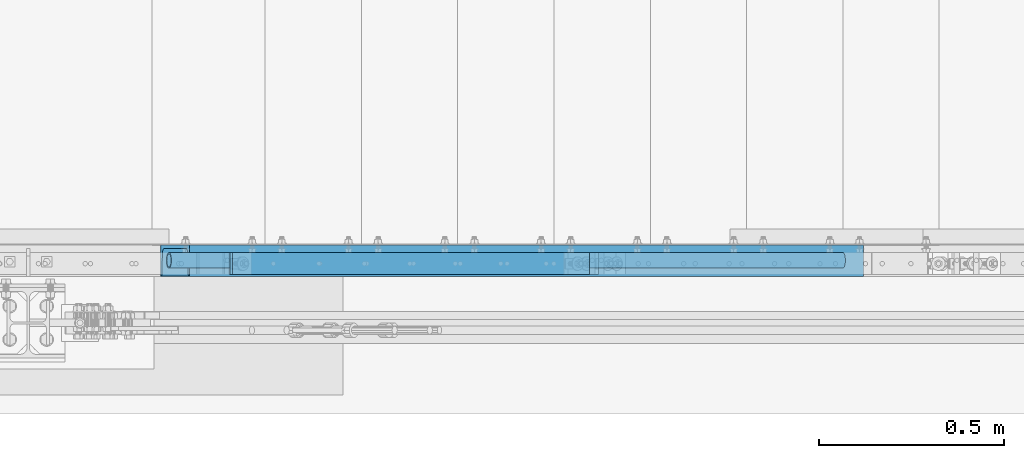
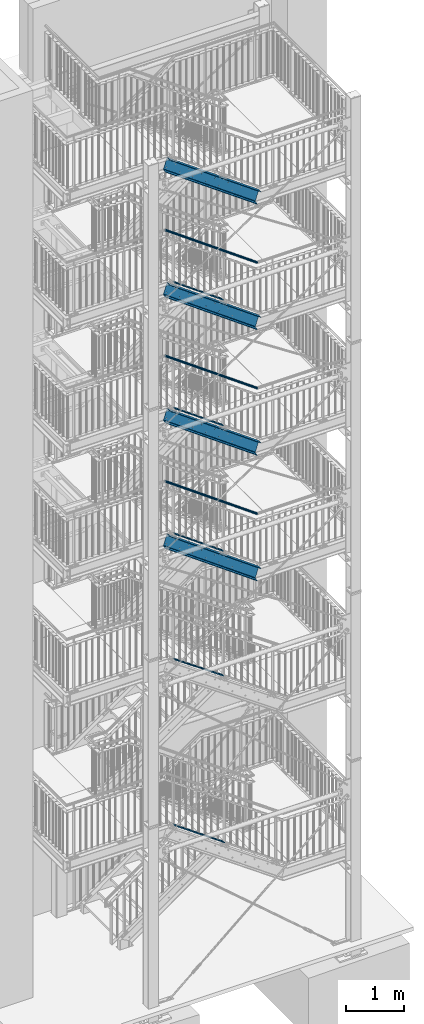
# One storey, part 117 of 825: 12 members, 64 openings.
"""IFC2X3 building model written with IfcOpenShell, lengths in millimetres."""

from ifc_helpers import new_model, entity, si_unit, converted_unit, frame, frame_2d, origin, origin_with_axes, origin_2d, origin_2d_with_axis, place, context, project, spatial, rectangle, circle, hollow_circle, u_section, extrude, clip, halfspace, material, element, save


model = new_model("IFC2X3")

# Units and contexts
model_context = context("Model", 3, precision=1e-09, world=origin_with_axes())
ifc_project = project(units=[si_unit("LENGTHUNIT", "METRE", prefix="MILLI"), si_unit("AREAUNIT", "SQUARE_METRE"), si_unit("VOLUMEUNIT", "CUBIC_METRE"), converted_unit("PLANEANGLEUNIT", "DEGREE", entity("IfcPlaneAngleMeasure", 0.01745329), si_unit("PLANEANGLEUNIT", "RADIAN"), dimensions=[0, 0, 0, 0, 0, 0, 0])], contexts=[model_context])

# Site, building, storey
site_placement = place(None, origin_with_axes())
site = spatial("IfcSite", under=ifc_project, at=site_placement, Name="Cnopf'sche Kinderklinik", CompositionType="ELEMENT")
building_placement = place(site_placement, origin_with_axes())
building = spatial("IfcBuilding", under=site, at=building_placement, Name="Struktur 1", CompositionType="ELEMENT")
storey_placement = place(building_placement, origin_with_axes())
storey = spatial("IfcBuildingStorey", under=building, at=storey_placement, Name="Default Storey", CompositionType="ELEMENT", Elevation=0.0)

# Member, openings
ifc_material = material(Name="S235JR")
member_1_placement = place(None, frame((7252.657044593, 4554.436971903, 11016.099256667), z_axis=(-0.810878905, 0.0, 0.585213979), x_axis=(0.0, -1.0, 0.0)))
member_1 = element("IfcMember", 1, at=member_1_placement, inside=storey, material=ifc_material, Name="Stringer#1", ObjectType="Stringer#1", context=model_context, shape_type="Clipping", body=[
    clip(clip(extrude(u_section(Depth=240.0, FlangeWidth=85.0, WebThickness=9.5, FlangeThickness=13.0, FilletRadius=13.0, EdgeRadius=6.5, FlangeSlope=4.574, at=frame_2d((20.2, 0.0))), origin(), (0.0, 0.0, 1.0), 2764.271886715), halfspace(frame((4554.436971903, -12161.289703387, -3708.993877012), z_axis=(0.0, -0.307506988, 0.951545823), x_axis=(1.0, 0.0, 0.0)), True)), halfspace(frame((4554.436971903, -12818.039088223, -1676.756695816), z_axis=(0.0, 0.307506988, -0.951545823), x_axis=(-1.0, 0.0, 0.0)), True)),
])
opening_1_placement = place(member_1_placement, frame((-22.8, -50.419345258, 1111.679598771), z_axis=(1.0, 0.0, 0.0), x_axis=(0.0, -0.585213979, 0.810878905)))
element("IfcOpeningElement", 2, at=opening_1_placement, cuts=member_1, ObjectType="Opening", context=model_context, shape_type="SweptSolid", body=[
    extrude(circle(Radius=7.001, at=origin_2d_with_axis()), origin(), (0.0, 0.0, 1.0), 10.5),
])
opening_2_placement = place(member_1_placement, frame((-22.8, -50.419345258, 1752.959075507), z_axis=(1.0, 0.0, 0.0), x_axis=(0.0, -0.585213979, 0.810878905)))
element("IfcOpeningElement", 3, at=opening_2_placement, cuts=member_1, ObjectType="Opening", context=model_context, shape_type="SweptSolid", body=[
    extrude(circle(Radius=7.001, at=origin_2d_with_axis()), origin(), (0.0, 0.0, 1.0), 10.5),
])
opening_3_placement = place(member_1_placement, frame((-22.8, 54.919170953, 645.081657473), z_axis=(1.0, 0.0, 0.0), x_axis=(0.0, -0.585213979, 0.810878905)))
element("IfcOpeningElement", 4, at=opening_3_placement, cuts=member_1, ObjectType="Opening", context=model_context, shape_type="SweptSolid", body=[
    extrude(circle(Radius=7.001, at=origin_2d_with_axis()), origin(), (0.0, 0.0, 1.0), 10.5),
])
opening_4_placement = place(member_1_placement, frame((-22.8, 54.919170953, 2248.280349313), z_axis=(1.0, 0.0, 0.0), x_axis=(0.0, -0.585213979, 0.810878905)))
element("IfcOpeningElement", 5, at=opening_4_placement, cuts=member_1, ObjectType="Opening", context=model_context, shape_type="SweptSolid", body=[
    extrude(circle(Radius=7.001, at=origin_2d_with_axis()), origin(), (0.0, 0.0, 1.0), 10.5),
])
opening_5_placement = place(member_1_placement, frame((-22.8, -50.419345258, 791.039860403), z_axis=(1.0, 0.0, 0.0), x_axis=(0.0, -0.585213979, 0.810878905)))
element("IfcOpeningElement", 6, at=opening_5_placement, cuts=member_1, ObjectType="Opening", context=model_context, shape_type="SweptSolid", body=[
    extrude(circle(Radius=7.001, at=origin_2d_with_axis()), origin(), (0.0, 0.0, 1.0), 10.5),
])
opening_6_placement = place(member_1_placement, frame((-22.8, -50.419345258, 1432.319337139), z_axis=(1.0, 0.0, 0.0), x_axis=(0.0, -0.585213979, 0.810878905)))
element("IfcOpeningElement", 7, at=opening_6_placement, cuts=member_1, ObjectType="Opening", context=model_context, shape_type="SweptSolid", body=[
    extrude(circle(Radius=7.001, at=origin_2d_with_axis()), origin(), (0.0, 0.0, 1.0), 10.5),
])
opening_7_placement = place(member_1_placement, frame((-22.8, -50.419345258, 2394.238552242), z_axis=(1.0, 0.0, 0.0), x_axis=(0.0, -0.585213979, 0.810878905)))
element("IfcOpeningElement", 8, at=opening_7_placement, cuts=member_1, ObjectType="Opening", context=model_context, shape_type="SweptSolid", body=[
    extrude(circle(Radius=7.001, at=origin_2d_with_axis()), origin(), (0.0, 0.0, 1.0), 10.5),
])
opening_8_placement = place(member_1_placement, frame((-22.8, 54.919170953, 1607.000872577), z_axis=(1.0, 0.0, 0.0), x_axis=(0.0, -0.585213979, 0.810878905)))
element("IfcOpeningElement", 9, at=opening_8_placement, cuts=member_1, ObjectType="Opening", context=model_context, shape_type="SweptSolid", body=[
    extrude(circle(Radius=7.001, at=origin_2d_with_axis()), origin(), (0.0, 0.0, 1.0), 10.5),
])
opening_9_placement = place(member_1_placement, frame((-22.8, 54.919170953, 1927.640610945), z_axis=(1.0, 0.0, 0.0), x_axis=(0.0, -0.585213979, 0.810878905)))
element("IfcOpeningElement", 10, at=opening_9_placement, cuts=member_1, ObjectType="Opening", context=model_context, shape_type="SweptSolid", body=[
    extrude(circle(Radius=7.001, at=origin_2d_with_axis()), origin(), (0.0, 0.0, 1.0), 10.5),
])
opening_10_placement = place(member_1_placement, frame((-22.8, 54.919170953, 965.721395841), z_axis=(1.0, 0.0, 0.0), x_axis=(0.0, -0.585213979, 0.810878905)))
element("IfcOpeningElement", 11, at=opening_10_placement, cuts=member_1, ObjectType="Opening", context=model_context, shape_type="SweptSolid", body=[
    extrude(circle(Radius=7.001, at=origin_2d_with_axis()), origin(), (0.0, 0.0, 1.0), 10.5),
])
opening_11_placement = place(member_1_placement, frame((-22.8, 54.919170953, 1286.361134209), z_axis=(1.0, 0.0, 0.0), x_axis=(0.0, -0.585213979, 0.810878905)))
element("IfcOpeningElement", 12, at=opening_11_placement, cuts=member_1, ObjectType="Opening", context=model_context, shape_type="SweptSolid", body=[
    extrude(circle(Radius=7.001, at=origin_2d_with_axis()), origin(), (0.0, 0.0, 1.0), 10.5),
])
opening_12_placement = place(member_1_placement, frame((-22.8, -50.419345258, 2073.598813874), z_axis=(1.0, 0.0, 0.0), x_axis=(0.0, -0.585213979, 0.810878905)))
element("IfcOpeningElement", 13, at=opening_12_placement, cuts=member_1, ObjectType="Opening", context=model_context, shape_type="SweptSolid", body=[
    extrude(circle(Radius=7.001, at=origin_2d_with_axis()), origin(), (0.0, 0.0, 1.0), 10.5),
])
opening_13_placement = place(member_1_placement, frame((27.7, 120.5, 1220.472067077), z_axis=(0.0, 1.0, 0.0), x_axis=(-1.0, 0.0, 0.0)))
element("IfcOpeningElement", 14, at=opening_13_placement, cuts=member_1, ObjectType="Opening", context=model_context, shape_type="SweptSolid", body=[
    extrude(circle(Radius=7.001, at=frame_2d((0.0, 7.001), x_axis=(1.0, 0.0))), origin(), (0.0, 0.0, -1.0), 14.0),
])
opening_14_placement = place(member_1_placement, frame((27.7, 120.5, 1120.472067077), z_axis=(0.0, 1.0, 0.0), x_axis=(-1.0, 0.0, 0.0)))
element("IfcOpeningElement", 15, at=opening_14_placement, cuts=member_1, ObjectType="Opening", context=model_context, shape_type="SweptSolid", body=[
    extrude(circle(Radius=7.001, at=frame_2d((0.0, 7.001), x_axis=(1.0, 0.0))), origin(), (0.0, 0.0, -1.0), 14.0),
])
opening_15_placement = place(member_1_placement, frame((27.7, 120.5, 2435.203559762), z_axis=(0.0, 1.0, 0.0), x_axis=(-1.0, 0.0, 0.0)))
element("IfcOpeningElement", 16, at=opening_15_placement, cuts=member_1, ObjectType="Opening", context=model_context, shape_type="SweptSolid", body=[
    extrude(circle(Radius=7.001, at=frame_2d((0.0, 7.001), x_axis=(1.0, 0.0))), origin(), (0.0, 0.0, -1.0), 14.0),
])
opening_16_placement = place(member_1_placement, frame((27.7, 120.5, 2335.203559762), z_axis=(0.0, 1.0, 0.0), x_axis=(-1.0, 0.0, 0.0)))
element("IfcOpeningElement", 17, at=opening_16_placement, cuts=member_1, ObjectType="Opening", context=model_context, shape_type="SweptSolid", body=[
    extrude(circle(Radius=7.001, at=frame_2d((0.0, 7.001), x_axis=(1.0, 0.0))), origin(), (0.0, 0.0, -1.0), 14.0),
])

member_2_placement = place(None, frame((7252.177764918, 4554.436971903, 13646.861065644), z_axis=(-0.810033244, 0.0, 0.586383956), x_axis=(0.0, -1.0, 0.0)))
member_2 = element("IfcMember", 18, at=member_2_placement, inside=storey, material=ifc_material, Name="Stringer#1", ObjectType="Stringer#1", context=model_context, shape_type="Clipping", body=[
    clip(clip(extrude(u_section(Depth=240.0, FlangeWidth=85.0, WebThickness=9.5, FlangeThickness=13.0, FilletRadius=13.0, EdgeRadius=6.5, FlangeSlope=4.574, at=frame_2d((20.2, 0.0))), origin(), (0.0, 0.0, 1.0), 2766.736495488), halfspace(frame((4554.436971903, -14541.73622123, -4489.902696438), z_axis=(0.0, -0.308193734, 0.951323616), x_axis=(1.0, 0.0, 0.0)), True)), halfspace(frame((4554.436971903, -15200.485604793, -2456.493916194), z_axis=(0.0, 0.308193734, -0.951323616), x_axis=(-1.0, 0.0, 0.0)), True)),
])
opening_17_placement = place(member_2_placement, frame((-22.8, -50.624378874, 2395.925170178), z_axis=(1.0, 0.0, 0.0), x_axis=(0.0, -0.586383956, 0.810033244)))
element("IfcOpeningElement", 19, at=opening_17_placement, cuts=member_2, ObjectType="Opening", context=model_context, shape_type="SweptSolid", body=[
    extrude(circle(Radius=7.001, at=origin_2d_with_axis()), origin(), (0.0, 0.0, 1.0), 10.5),
])
opening_18_placement = place(member_2_placement, frame((-22.8, 54.924733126, 1608.170224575), z_axis=(1.0, 0.0, 0.0), x_axis=(0.0, -0.586383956, 0.810033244)))
element("IfcOpeningElement", 20, at=opening_18_placement, cuts=member_2, ObjectType="Opening", context=model_context, shape_type="SweptSolid", body=[
    extrude(circle(Radius=7.001, at=origin_2d_with_axis()), origin(), (0.0, 0.0, 1.0), 10.5),
])
opening_19_placement = place(member_2_placement, frame((-22.8, -50.624378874, 1433.001727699), z_axis=(1.0, 0.0, 0.0), x_axis=(0.0, -0.586383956, 0.810033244)))
element("IfcOpeningElement", 21, at=opening_19_placement, cuts=member_2, ObjectType="Opening", context=model_context, shape_type="SweptSolid", body=[
    extrude(circle(Radius=7.001, at=origin_2d_with_axis()), origin(), (0.0, 0.0, 1.0), 10.5),
])
opening_20_placement = place(member_2_placement, frame((-22.8, -50.624378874, 1112.027246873), z_axis=(1.0, 0.0, 0.0), x_axis=(0.0, -0.586383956, 0.810033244)))
element("IfcOpeningElement", 22, at=opening_20_placement, cuts=member_2, ObjectType="Opening", context=model_context, shape_type="SweptSolid", body=[
    extrude(circle(Radius=7.001, at=origin_2d_with_axis()), origin(), (0.0, 0.0, 1.0), 10.5),
])
opening_21_placement = place(member_2_placement, frame((-22.8, 54.924733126, 1929.144705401), z_axis=(1.0, 0.0, 0.0), x_axis=(0.0, -0.586383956, 0.810033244)))
element("IfcOpeningElement", 23, at=opening_21_placement, cuts=member_2, ObjectType="Opening", context=model_context, shape_type="SweptSolid", body=[
    extrude(circle(Radius=7.001, at=origin_2d_with_axis()), origin(), (0.0, 0.0, 1.0), 10.5),
])
opening_22_placement = place(member_2_placement, frame((-22.8, -50.624378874, 791.052766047), z_axis=(1.0, 0.0, 0.0), x_axis=(0.0, -0.586383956, 0.810033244)))
element("IfcOpeningElement", 24, at=opening_22_placement, cuts=member_2, ObjectType="Opening", context=model_context, shape_type="SweptSolid", body=[
    extrude(circle(Radius=7.001, at=origin_2d_with_axis()), origin(), (0.0, 0.0, 1.0), 10.5),
])
opening_23_placement = place(member_2_placement, frame((-22.8, -50.624378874, 2074.950689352), z_axis=(1.0, 0.0, 0.0), x_axis=(0.0, -0.586383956, 0.810033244)))
element("IfcOpeningElement", 25, at=opening_23_placement, cuts=member_2, ObjectType="Opening", context=model_context, shape_type="SweptSolid", body=[
    extrude(circle(Radius=7.001, at=origin_2d_with_axis()), origin(), (0.0, 0.0, 1.0), 10.5),
])
opening_24_placement = place(member_2_placement, frame((-22.8, 54.924733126, 1287.195743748), z_axis=(1.0, 0.0, 0.0), x_axis=(0.0, -0.586383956, 0.810033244)))
element("IfcOpeningElement", 26, at=opening_24_placement, cuts=member_2, ObjectType="Opening", context=model_context, shape_type="SweptSolid", body=[
    extrude(circle(Radius=7.001, at=origin_2d_with_axis()), origin(), (0.0, 0.0, 1.0), 10.5),
])
opening_25_placement = place(member_2_placement, frame((-22.8, -50.624378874, 1753.976208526), z_axis=(1.0, 0.0, 0.0), x_axis=(0.0, -0.586383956, 0.810033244)))
element("IfcOpeningElement", 27, at=opening_25_placement, cuts=member_2, ObjectType="Opening", context=model_context, shape_type="SweptSolid", body=[
    extrude(circle(Radius=7.001, at=origin_2d_with_axis()), origin(), (0.0, 0.0, 1.0), 10.5),
])
opening_26_placement = place(member_2_placement, frame((-22.8, 54.924733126, 645.246782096), z_axis=(1.0, 0.0, 0.0), x_axis=(0.0, -0.586383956, 0.810033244)))
element("IfcOpeningElement", 28, at=opening_26_placement, cuts=member_2, ObjectType="Opening", context=model_context, shape_type="SweptSolid", body=[
    extrude(circle(Radius=7.001, at=origin_2d_with_axis()), origin(), (0.0, 0.0, 1.0), 10.5),
])
opening_27_placement = place(member_2_placement, frame((-22.8, 54.924733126, 966.221262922), z_axis=(1.0, 0.0, 0.0), x_axis=(0.0, -0.586383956, 0.810033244)))
element("IfcOpeningElement", 29, at=opening_27_placement, cuts=member_2, ObjectType="Opening", context=model_context, shape_type="SweptSolid", body=[
    extrude(circle(Radius=7.001, at=origin_2d_with_axis()), origin(), (0.0, 0.0, 1.0), 10.5),
])
opening_28_placement = place(member_2_placement, frame((-22.8, 54.924733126, 2250.119186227), z_axis=(1.0, 0.0, 0.0), x_axis=(0.0, -0.586383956, 0.810033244)))
element("IfcOpeningElement", 30, at=opening_28_placement, cuts=member_2, ObjectType="Opening", context=model_context, shape_type="SweptSolid", body=[
    extrude(circle(Radius=7.001, at=origin_2d_with_axis()), origin(), (0.0, 0.0, 1.0), 10.5),
])
opening_29_placement = place(member_2_placement, frame((27.7, 120.5, 1221.277568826), z_axis=(0.0, 1.0, 0.0), x_axis=(-1.0, 0.0, 0.0)))
element("IfcOpeningElement", 31, at=opening_29_placement, cuts=member_2, ObjectType="Opening", context=model_context, shape_type="SweptSolid", body=[
    extrude(circle(Radius=7.001, at=frame_2d((0.0, 7.001), x_axis=(1.0, 0.0))), origin(), (0.0, 0.0, -1.0), 14.000000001),
])
opening_30_placement = place(member_2_placement, frame((27.7, 120.500000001, 1121.277568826), z_axis=(0.0, 1.0, 0.0), x_axis=(-1.0, 0.0, 0.0)))
element("IfcOpeningElement", 32, at=opening_30_placement, cuts=member_2, ObjectType="Opening", context=model_context, shape_type="SweptSolid", body=[
    extrude(circle(Radius=7.001, at=frame_2d((0.0, 7.001), x_axis=(1.0, 0.0))), origin(), (0.0, 0.0, -1.0), 14.000000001),
])
opening_31_placement = place(member_2_placement, frame((27.7, 120.5, 2437.277220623), z_axis=(0.0, 1.0, 0.0), x_axis=(-1.0, 0.0, 0.0)))
element("IfcOpeningElement", 33, at=opening_31_placement, cuts=member_2, ObjectType="Opening", context=model_context, shape_type="SweptSolid", body=[
    extrude(circle(Radius=7.001, at=frame_2d((0.0, 7.001), x_axis=(1.0, 0.0))), origin(), (0.0, 0.0, -1.0), 14.0),
])
opening_32_placement = place(member_2_placement, frame((27.7, 120.5, 2337.277220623), z_axis=(0.0, 1.0, 0.0), x_axis=(-1.0, 0.0, 0.0)))
element("IfcOpeningElement", 34, at=opening_32_placement, cuts=member_2, ObjectType="Opening", context=model_context, shape_type="SweptSolid", body=[
    extrude(circle(Radius=7.001, at=frame_2d((0.0, 7.001), x_axis=(1.0, 0.0))), origin(), (0.0, 0.0, -1.0), 14.0),
])

member_3_placement = place(None, frame((7253.077573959, 4554.436971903, 16274.808313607), z_axis=(-0.811618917, 0.0, 0.584187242), x_axis=(0.0, -1.0, 0.0)))
member_3 = element("IfcMember", 35, at=member_3_placement, inside=storey, material=ifc_material, Name="Stringer#1", ObjectType="Stringer#1", context=model_context, shape_type="Clipping", body=[
    clip(clip(extrude(u_section(Depth=240.0, FlangeWidth=85.0, WebThickness=9.5, FlangeThickness=13.0, FilletRadius=13.0, EdgeRadius=6.5, FlangeSlope=4.574, at=frame_2d((20.2, 0.0))), origin(), (0.0, 0.0, 1.0), 2762.119260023), halfspace(frame((4554.436971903, -16925.049146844, -5236.620334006), z_axis=(0.0, -0.306904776, 0.951740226), x_axis=(1.0, 0.0, 0.0)), True)), halfspace(frame((4554.436971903, -17580.048532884, -3205.40637968), z_axis=(0.0, 0.306904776, -0.951740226), x_axis=(-1.0, 0.0, 0.0)), True)),
])
opening_33_placement = place(member_3_placement, frame((-22.8, -50.23929749, 1752.072290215), z_axis=(1.0, 0.0, 0.0), x_axis=(0.0, -0.584187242, 0.811618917)))
element("IfcOpeningElement", 36, at=opening_33_placement, cuts=member_3, ObjectType="Opening", context=model_context, shape_type="SweptSolid", body=[
    extrude(circle(Radius=7.001, at=origin_2d_with_axis()), origin(), (0.0, 0.0, 1.0), 10.5),
])
opening_34_placement = place(member_3_placement, frame((-22.8, 54.914406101, 2246.675661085), z_axis=(1.0, 0.0, 0.0), x_axis=(0.0, -0.584187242, 0.811618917)))
element("IfcOpeningElement", 37, at=opening_34_placement, cuts=member_3, ObjectType="Opening", context=model_context, shape_type="SweptSolid", body=[
    extrude(circle(Radius=7.001, at=origin_2d_with_axis()), origin(), (0.0, 0.0, 1.0), 10.5),
])
opening_35_placement = place(member_3_placement, frame((-22.8, 54.914406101, 965.286109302), z_axis=(1.0, 0.0, 0.0), x_axis=(0.0, -0.584187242, 0.811618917)))
element("IfcOpeningElement", 38, at=opening_35_placement, cuts=member_3, ObjectType="Opening", context=model_context, shape_type="SweptSolid", body=[
    extrude(circle(Radius=7.001, at=origin_2d_with_axis()), origin(), (0.0, 0.0, 1.0), 10.5),
])
opening_36_placement = place(member_3_placement, frame((-22.8, -50.23929749, 791.030126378), z_axis=(1.0, 0.0, 0.0), x_axis=(0.0, -0.584187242, 0.811618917)))
element("IfcOpeningElement", 39, at=opening_36_placement, cuts=member_3, ObjectType="Opening", context=model_context, shape_type="SweptSolid", body=[
    extrude(circle(Radius=7.001, at=origin_2d_with_axis()), origin(), (0.0, 0.0, 1.0), 10.5),
])
opening_37_placement = place(member_3_placement, frame((-22.8, 54.914406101, 1285.633497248), z_axis=(1.0, 0.0, 0.0), x_axis=(0.0, -0.584187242, 0.811618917)))
element("IfcOpeningElement", 40, at=opening_37_placement, cuts=member_3, ObjectType="Opening", context=model_context, shape_type="SweptSolid", body=[
    extrude(circle(Radius=7.001, at=origin_2d_with_axis()), origin(), (0.0, 0.0, 1.0), 10.5),
])
opening_38_placement = place(member_3_placement, frame((-22.8, -50.23929749, 2392.767066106), z_axis=(1.0, 0.0, 0.0), x_axis=(0.0, -0.584187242, 0.811618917)))
element("IfcOpeningElement", 41, at=opening_38_placement, cuts=member_3, ObjectType="Opening", context=model_context, shape_type="SweptSolid", body=[
    extrude(circle(Radius=7.001, at=origin_2d_with_axis()), origin(), (0.0, 0.0, 1.0), 10.5),
])
opening_39_placement = place(member_3_placement, frame((-22.8, 54.914406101, 1605.980885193), z_axis=(1.0, 0.0, 0.0), x_axis=(0.0, -0.584187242, 0.811618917)))
element("IfcOpeningElement", 42, at=opening_39_placement, cuts=member_3, ObjectType="Opening", context=model_context, shape_type="SweptSolid", body=[
    extrude(circle(Radius=7.001, at=origin_2d_with_axis()), origin(), (0.0, 0.0, 1.0), 10.5),
])
opening_40_placement = place(member_3_placement, frame((-22.8, -50.23929749, 2072.419678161), z_axis=(1.0, 0.0, 0.0), x_axis=(0.0, -0.584187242, 0.811618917)))
element("IfcOpeningElement", 43, at=opening_40_placement, cuts=member_3, ObjectType="Opening", context=model_context, shape_type="SweptSolid", body=[
    extrude(circle(Radius=7.001, at=origin_2d_with_axis()), origin(), (0.0, 0.0, 1.0), 10.5),
])
opening_41_placement = place(member_3_placement, frame((-22.8, -50.23929749, 1111.377514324), z_axis=(1.0, 0.0, 0.0), x_axis=(0.0, -0.584187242, 0.811618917)))
element("IfcOpeningElement", 44, at=opening_41_placement, cuts=member_3, ObjectType="Opening", context=model_context, shape_type="SweptSolid", body=[
    extrude(circle(Radius=7.001, at=origin_2d_with_axis()), origin(), (0.0, 0.0, 1.0), 10.5),
])
opening_42_placement = place(member_3_placement, frame((-22.8, 54.914406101, 1926.328273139), z_axis=(1.0, 0.0, 0.0), x_axis=(0.0, -0.584187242, 0.811618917)))
element("IfcOpeningElement", 45, at=opening_42_placement, cuts=member_3, ObjectType="Opening", context=model_context, shape_type="SweptSolid", body=[
    extrude(circle(Radius=7.001, at=origin_2d_with_axis()), origin(), (0.0, 0.0, 1.0), 10.5),
])
opening_43_placement = place(member_3_placement, frame((-22.8, -50.23929749, 1431.72490227), z_axis=(1.0, 0.0, 0.0), x_axis=(0.0, -0.584187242, 0.811618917)))
element("IfcOpeningElement", 46, at=opening_43_placement, cuts=member_3, ObjectType="Opening", context=model_context, shape_type="SweptSolid", body=[
    extrude(circle(Radius=7.001, at=origin_2d_with_axis()), origin(), (0.0, 0.0, 1.0), 10.5),
])
opening_44_placement = place(member_3_placement, frame((-22.8, 54.914406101, 644.938721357), z_axis=(1.0, 0.0, 0.0), x_axis=(0.0, -0.584187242, 0.811618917)))
element("IfcOpeningElement", 47, at=opening_44_placement, cuts=member_3, ObjectType="Opening", context=model_context, shape_type="SweptSolid", body=[
    extrude(circle(Radius=7.001, at=origin_2d_with_axis()), origin(), (0.0, 0.0, 1.0), 10.5),
])
opening_45_placement = place(member_3_placement, frame((27.7, 120.5, 1219.769530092), z_axis=(0.0, 1.0, 0.0), x_axis=(-1.0, 0.0, 0.0)))
element("IfcOpeningElement", 48, at=opening_45_placement, cuts=member_3, ObjectType="Opening", context=model_context, shape_type="SweptSolid", body=[
    extrude(circle(Radius=7.001, at=frame_2d((0.0, 7.001), x_axis=(1.0, 0.0))), origin(), (0.0, 0.0, -1.0), 14.0),
])
opening_46_placement = place(member_3_placement, frame((27.7, 120.5, 1119.769530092), z_axis=(0.0, 1.0, 0.0), x_axis=(-1.0, 0.0, 0.0)))
element("IfcOpeningElement", 49, at=opening_46_placement, cuts=member_3, ObjectType="Opening", context=model_context, shape_type="SweptSolid", body=[
    extrude(circle(Radius=7.001, at=frame_2d((0.0, 7.001), x_axis=(1.0, 0.0))), origin(), (0.0, 0.0, -1.0), 14.0),
])
opening_47_placement = place(member_3_placement, frame((27.7, 120.5, 2433.393464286), z_axis=(0.0, 1.0, 0.0), x_axis=(-1.0, 0.0, 0.0)))
element("IfcOpeningElement", 50, at=opening_47_placement, cuts=member_3, ObjectType="Opening", context=model_context, shape_type="SweptSolid", body=[
    extrude(circle(Radius=7.001, at=frame_2d((0.0, 7.001), x_axis=(1.0, 0.0))), origin(), (0.0, 0.0, -1.0), 14.0),
])
opening_48_placement = place(member_3_placement, frame((27.7, 120.5, 2333.393464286), z_axis=(0.0, 1.0, 0.0), x_axis=(-1.0, 0.0, 0.0)))
element("IfcOpeningElement", 51, at=opening_48_placement, cuts=member_3, ObjectType="Opening", context=model_context, shape_type="SweptSolid", body=[
    extrude(circle(Radius=7.001, at=frame_2d((0.0, 7.001), x_axis=(1.0, 0.0))), origin(), (0.0, 0.0, -1.0), 14.0),
])

member_4_placement = place(None, frame((7252.357329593, 4554.436971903, 8386.450295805), z_axis=(-0.810350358, 0.0, 0.585945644), x_axis=(0.0, -1.0, 0.0)))
member_4 = element("IfcMember", 52, at=member_4_placement, inside=storey, material=ifc_material, Name="Stringer#1", ObjectType="Stringer#1", context=model_context, shape_type="Clipping", body=[
    clip(clip(extrude(u_section(Depth=240.0, FlangeWidth=85.0, WebThickness=9.5, FlangeThickness=13.0, FilletRadius=13.0, EdgeRadius=6.5, FlangeSlope=4.574, at=frame_2d((20.2, 0.0))), origin(), (0.0, 0.0, 1.0), 2765.811710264), halfspace(frame((4554.436971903, -9780.725399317, -2944.574754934), z_axis=(0.0, -0.307936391, 0.951406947), x_axis=(1.0, 0.0, 0.0)), True)), halfspace(frame((4554.436971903, -10438.724783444, -911.605598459), z_axis=(0.0, 0.307936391, -0.951406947), x_axis=(-1.0, 0.0, 0.0)), True)),
])
opening_49_placement = place(member_4_placement, frame((-22.8, -50.547583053, 2395.29207482), z_axis=(1.0, 0.0, 0.0), x_axis=(0.0, -0.585945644, 0.810350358)))
element("IfcOpeningElement", 53, at=opening_49_placement, cuts=member_4, ObjectType="Opening", context=model_context, shape_type="SweptSolid", body=[
    extrude(circle(Radius=7.001, at=origin_2d_with_axis()), origin(), (0.0, 0.0, 1.0), 10.5),
])
opening_50_placement = place(member_4_placement, frame((-22.8, 54.922632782, 1286.882388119), z_axis=(1.0, 0.0, 0.0), x_axis=(0.0, -0.585945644, 0.810350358)))
element("IfcOpeningElement", 54, at=opening_50_placement, cuts=member_4, ObjectType="Opening", context=model_context, shape_type="SweptSolid", body=[
    extrude(circle(Radius=7.001, at=origin_2d_with_axis()), origin(), (0.0, 0.0, 1.0), 10.5),
])
opening_51_placement = place(member_4_placement, frame((-22.8, -50.547583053, 1111.89657849), z_axis=(1.0, 0.0, 0.0), x_axis=(0.0, -0.585945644, 0.810350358)))
element("IfcOpeningElement", 55, at=opening_51_placement, cuts=member_4, ObjectType="Opening", context=model_context, shape_type="SweptSolid", body=[
    extrude(circle(Radius=7.001, at=origin_2d_with_axis()), origin(), (0.0, 0.0, 1.0), 10.5),
])
opening_52_placement = place(member_4_placement, frame((-22.8, -50.547583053, 791.047704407), z_axis=(1.0, 0.0, 0.0), x_axis=(0.0, -0.585945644, 0.810350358)))
element("IfcOpeningElement", 56, at=opening_52_placement, cuts=member_4, ObjectType="Opening", context=model_context, shape_type="SweptSolid", body=[
    extrude(circle(Radius=7.001, at=origin_2d_with_axis()), origin(), (0.0, 0.0, 1.0), 10.5),
])
opening_53_placement = place(member_4_placement, frame((-22.8, 54.922632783, 1928.580136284), z_axis=(1.0, 0.0, 0.0), x_axis=(0.0, -0.585945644, 0.810350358)))
element("IfcOpeningElement", 57, at=opening_53_placement, cuts=member_4, ObjectType="Opening", context=model_context, shape_type="SweptSolid", body=[
    extrude(circle(Radius=7.001, at=origin_2d_with_axis()), origin(), (0.0, 0.0, 1.0), 10.5),
])
opening_54_placement = place(member_4_placement, frame((-22.8, -50.547583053, 1432.745452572), z_axis=(1.0, 0.0, 0.0), x_axis=(0.0, -0.585945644, 0.810350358)))
element("IfcOpeningElement", 58, at=opening_54_placement, cuts=member_4, ObjectType="Opening", context=model_context, shape_type="SweptSolid", body=[
    extrude(circle(Radius=7.001, at=origin_2d_with_axis()), origin(), (0.0, 0.0, 1.0), 10.5),
])
opening_55_placement = place(member_4_placement, frame((-22.8, 54.922632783, 1607.731262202), z_axis=(1.0, 0.0, 0.0), x_axis=(0.0, -0.585945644, 0.810350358)))
element("IfcOpeningElement", 59, at=opening_55_placement, cuts=member_4, ObjectType="Opening", context=model_context, shape_type="SweptSolid", body=[
    extrude(circle(Radius=7.001, at=origin_2d_with_axis()), origin(), (0.0, 0.0, 1.0), 10.5),
])
opening_56_placement = place(member_4_placement, frame((-22.8, -50.547583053, 2074.443200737), z_axis=(1.0, 0.0, 0.0), x_axis=(0.0, -0.585945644, 0.810350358)))
element("IfcOpeningElement", 60, at=opening_56_placement, cuts=member_4, ObjectType="Opening", context=model_context, shape_type="SweptSolid", body=[
    extrude(circle(Radius=7.001, at=origin_2d_with_axis()), origin(), (0.0, 0.0, 1.0), 10.5),
])
opening_57_placement = place(member_4_placement, frame((-22.8, -50.547583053, 1753.594326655), z_axis=(1.0, 0.0, 0.0), x_axis=(0.0, -0.585945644, 0.810350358)))
element("IfcOpeningElement", 61, at=opening_57_placement, cuts=member_4, ObjectType="Opening", context=model_context, shape_type="SweptSolid", body=[
    extrude(circle(Radius=7.001, at=origin_2d_with_axis()), origin(), (0.0, 0.0, 1.0), 10.5),
])
opening_58_placement = place(member_4_placement, frame((-22.8, 54.922632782, 966.033514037), z_axis=(1.0, 0.0, 0.0), x_axis=(0.0, -0.585945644, 0.810350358)))
element("IfcOpeningElement", 62, at=opening_58_placement, cuts=member_4, ObjectType="Opening", context=model_context, shape_type="SweptSolid", body=[
    extrude(circle(Radius=7.001, at=origin_2d_with_axis()), origin(), (0.0, 0.0, 1.0), 10.5),
])
opening_59_placement = place(member_4_placement, frame((-22.8, 54.922632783, 2249.429010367), z_axis=(1.0, 0.0, 0.0), x_axis=(0.0, -0.585945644, 0.810350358)))
element("IfcOpeningElement", 63, at=opening_59_placement, cuts=member_4, ObjectType="Opening", context=model_context, shape_type="SweptSolid", body=[
    extrude(circle(Radius=7.001, at=origin_2d_with_axis()), origin(), (0.0, 0.0, 1.0), 10.5),
])
opening_60_placement = place(member_4_placement, frame((-22.8, 54.922632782, 645.184639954), z_axis=(1.0, 0.0, 0.0), x_axis=(0.0, -0.585945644, 0.810350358)))
element("IfcOpeningElement", 64, at=opening_60_placement, cuts=member_4, ObjectType="Opening", context=model_context, shape_type="SweptSolid", body=[
    extrude(circle(Radius=7.001, at=origin_2d_with_axis()), origin(), (0.0, 0.0, 1.0), 10.5),
])
opening_61_placement = place(member_4_placement, frame((27.7, 120.5, 1220.97518133), z_axis=(0.0, 1.0, 0.0), x_axis=(-1.0, 0.0, 0.0)))
element("IfcOpeningElement", 65, at=opening_61_placement, cuts=member_4, ObjectType="Opening", context=model_context, shape_type="SweptSolid", body=[
    extrude(circle(Radius=7.001, at=frame_2d((0.0, 7.001), x_axis=(1.0, 0.0))), origin(), (0.0, 0.0, -1.0), 14.0),
])
opening_62_placement = place(member_4_placement, frame((27.7, 120.5, 1120.97518133), z_axis=(0.0, 1.0, 0.0), x_axis=(-1.0, 0.0, 0.0)))
element("IfcOpeningElement", 66, at=opening_62_placement, cuts=member_4, ObjectType="Opening", context=model_context, shape_type="SweptSolid", body=[
    extrude(circle(Radius=7.001, at=frame_2d((0.0, 7.001), x_axis=(1.0, 0.0))), origin(), (0.0, 0.0, -1.0), 14.0),
])
opening_63_placement = place(member_4_placement, frame((27.7, 120.5, 2436.498976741), z_axis=(0.0, 1.0, 0.0), x_axis=(-1.0, 0.0, 0.0)))
element("IfcOpeningElement", 67, at=opening_63_placement, cuts=member_4, ObjectType="Opening", context=model_context, shape_type="SweptSolid", body=[
    extrude(circle(Radius=7.001, at=frame_2d((0.0, 7.001), x_axis=(1.0, 0.0))), origin(), (0.0, 0.0, -1.0), 14.0),
])
opening_64_placement = place(member_4_placement, frame((27.7, 120.5, 2336.498976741), z_axis=(0.0, 1.0, 0.0), x_axis=(-1.0, 0.0, 0.0)))
element("IfcOpeningElement", 68, at=opening_64_placement, cuts=member_4, ObjectType="Opening", context=model_context, shape_type="SweptSolid", body=[
    extrude(circle(Radius=7.001, at=frame_2d((0.0, 7.001), x_axis=(1.0, 0.0))), origin(), (0.0, 0.0, -1.0), 14.0),
])

# Members
member_5_placement = place(None, frame((6393.620004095, 4526.736971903, 3143.138407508), z_axis=(0.814635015, 0.0, -0.579973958), x_axis=(-0.579973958, 0.0, -0.814635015)))
element("IfcMember", 69, at=member_5_placement, inside=storey, material=ifc_material, Name="Railing_Kneerail_Stair#14", ObjectType="Railing_Kneerail_Stair#14", context=model_context, shape_type="SweptSolid", body=[
    extrude(rectangle(XDim=10.0, YDim=60.0, at=origin_2d()), origin(), (0.0, 0.0, -1.0), 1218.06374537),
])
member_6_placement = place(None, frame((6369.416333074, 4526.736971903, 6643.124526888), z_axis=(0.818063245, 0.0, -0.57512827), x_axis=(-0.57512827, 0.0, -0.818063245)))
element("IfcMember", 70, at=member_6_placement, inside=storey, material=ifc_material, Name="Railing_Kneerail_Stair#16", ObjectType="Railing_Kneerail_Stair#16", context=model_context, shape_type="SweptSolid", body=[
    extrude(rectangle(XDim=10.0, YDim=60.0, at=origin_2d()), origin(), (0.0, 0.0, -1.0), 1178.697204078),
])
member_7_placement = place(None, frame((7082.24966754, 4535.536971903, 9757.535316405), z_axis=(0.810350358, 0.0, -0.585945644), x_axis=(-0.585945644, 0.0, -0.810350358)))
element("IfcMember", 71, at=member_7_placement, inside=storey, material=ifc_material, Name="Gel?nder", ObjectType="Gel?nder", context=model_context, shape_type="Clipping", body=[
    clip(clip(extrude(hollow_circle(Radius=21.2, WallThickness=3.2, at=origin_2d()), origin(), (0.0, 0.0, -1.0), 2308.967362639), halfspace(frame((10916.418096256, -4535.536971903, 3501.740317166), z_axis=(0.307936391, 0.0, -0.951406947), x_axis=(0.0, -1.0, 0.0)), True)), halfspace(frame((11574.417480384, -4535.536971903, 1468.77116069), z_axis=(-0.307936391, 0.0, 0.951406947), x_axis=(0.0, 1.0, 0.0)), True)),
])
member_8_placement = place(None, frame((6369.362246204, 4526.736971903, 9253.219978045), z_axis=(0.810350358, 0.0, -0.585945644), x_axis=(-0.585945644, 0.0, -0.810350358)))
element("IfcMember", 72, at=member_8_placement, inside=storey, material=ifc_material, Name="Railing_Kneerail_Stair#16", ObjectType="Railing_Kneerail_Stair#16", context=model_context, shape_type="SweptSolid", body=[
    extrude(rectangle(XDim=10.0, YDim=60.0, at=origin_2d()), origin(), (0.0, 0.0, -1.0), 1189.782514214),
])
member_9_placement = place(None, frame((7082.262594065, 4535.536971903, 12387.061064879), z_axis=(0.810878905, 0.0, -0.585213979), x_axis=(-0.585213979, 0.0, -0.810878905)))
element("IfcMember", 73, at=member_9_placement, inside=storey, material=ifc_material, Name="Gel?nder", ObjectType="Gel?nder", context=model_context, shape_type="Clipping", body=[
    clip(clip(extrude(hollow_circle(Radius=21.2, WallThickness=3.2, at=origin_2d()), origin(), (0.0, 0.0, -1.0), 2307.494214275), halfspace(frame((13954.022486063, -4535.536971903, 2233.476534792), z_axis=(-0.307506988, 0.0, 0.951545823), x_axis=(0.0, 1.0, 0.0)), True)), halfspace(frame((13297.273101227, -4535.536971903, 4265.713715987), z_axis=(0.307506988, 0.0, -0.951545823), x_axis=(0.0, -1.0, 0.0)), True)),
])
member_10_placement = place(None, frame((6369.365904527, 4526.736971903, 11881.720890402), z_axis=(0.810878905, 0.0, -0.585213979), x_axis=(-0.585213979, 0.0, -0.810878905)))
element("IfcMember", 74, at=member_10_placement, inside=storey, material=ifc_material, Name="Railing_Kneerail_Stair#16", ObjectType="Railing_Kneerail_Stair#16", context=model_context, shape_type="SweptSolid", body=[
    extrude(rectangle(XDim=10.0, YDim=60.0, at=origin_2d()), origin(), (0.0, 0.0, -1.0), 1189.016013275),
])
member_11_placement = place(None, frame((7082.241910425, 4535.536971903, 15018.019885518), z_axis=(0.810033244, 0.0, -0.586383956), x_axis=(-0.586383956, 0.0, -0.810033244)))
element("IfcMember", 75, at=member_11_placement, inside=storey, material=ifc_material, Name="Gel?nder", ObjectType="Gel?nder", context=model_context, shape_type="Clipping", body=[
    clip(clip(extrude(hollow_circle(Radius=21.2, WallThickness=3.2, at=origin_2d()), origin(), (0.0, 0.0, -1.0), 2309.852130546), halfspace(frame((15677.254505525, -4535.536971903, 5047.335316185), z_axis=(0.308193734, 0.0, -0.951323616), x_axis=(0.0, -1.0, 0.0)), True)), halfspace(frame((16336.003889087, -4535.536971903, 3013.926535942), z_axis=(-0.308193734, 0.0, 0.951323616), x_axis=(0.0, 1.0, 0.0)), True)),
])
member_12_placement = place(None, frame((6369.360054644, 4526.736971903, 14514.319464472), z_axis=(0.810033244, 0.0, -0.586383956), x_axis=(-0.586383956, 0.0, -0.810033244)))
element("IfcMember", 76, at=member_12_placement, inside=storey, material=ifc_material, Name="Railing_Kneerail_Stair#16", ObjectType="Railing_Kneerail_Stair#16", context=model_context, shape_type="SweptSolid", body=[
    extrude(rectangle(XDim=10.0, YDim=60.0, at=origin_2d()), origin(), (0.0, 0.0, -1.0), 1190.242882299),
])

save(model, "model.ifc")
